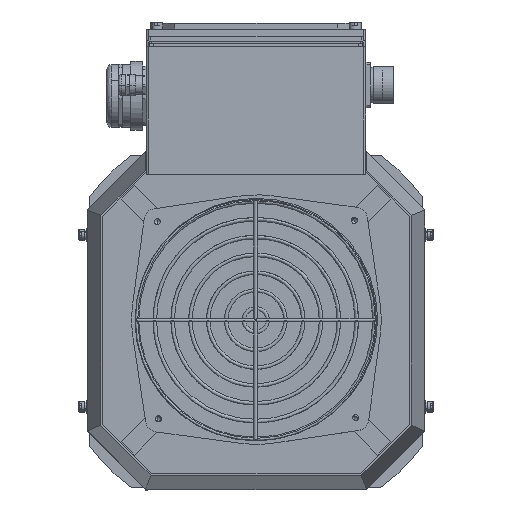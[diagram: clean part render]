
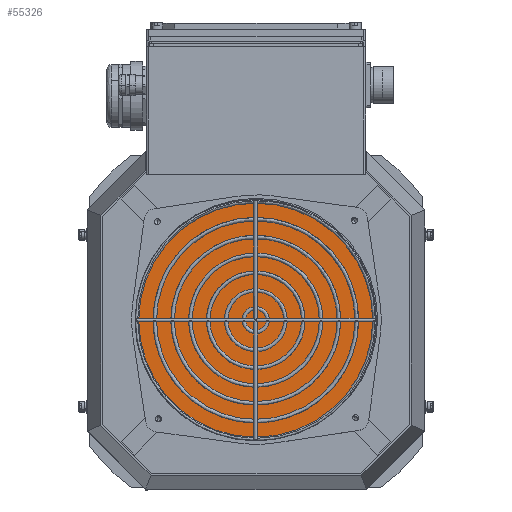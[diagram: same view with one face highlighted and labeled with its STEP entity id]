
A CAD part, top view. The second image highlights one B-rep face of the part: STEP entity #55326.
In plain terms, the highlighted planar face has unit normal (0, 0, 1).
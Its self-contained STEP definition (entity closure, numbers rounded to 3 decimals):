
#318 = DIRECTION ( 'NONE',  ( 1., 0., 0. ) ) ;
#1657 = VERTEX_POINT ( 'NONE', #57262 ) ;
#1967 = DIRECTION ( 'NONE',  ( 0.707, 0.707, 0. ) ) ;
#2283 = LINE ( 'NONE', #59816, #4056 ) ;
#4056 = VECTOR ( 'NONE', #25013, 1000. ) ;
#5516 = EDGE_CURVE ( 'NONE', #62425, #42437, #56407, .T. ) ;
#7444 = CARTESIAN_POINT ( 'NONE',  ( 0., -140., 434.5 ) ) ;
#7828 = ORIENTED_EDGE ( 'NONE', *, *, #21701, .F. ) ;
#8009 = ORIENTED_EDGE ( 'NONE', *, *, #69026, .F. ) ;
#8382 = LINE ( 'NONE', #75233, #47499 ) ;
#8986 = CARTESIAN_POINT ( 'NONE',  ( 140., -92.172, 434.5 ) ) ;
#9298 = LINE ( 'NONE', #56111, #35703 ) ;
#10020 = VECTOR ( 'NONE', #52625, 1000. ) ;
#11594 = CARTESIAN_POINT ( 'NONE',  ( 0., 0., 434.5 ) ) ;
#12910 = CARTESIAN_POINT ( 'NONE',  ( -92.172, -140., 434.5 ) ) ;
#16431 = DIRECTION ( 'NONE',  ( 0., 0., -1. ) ) ;
#18438 = VECTOR ( 'NONE', #65113, 1000. ) ;
#19341 = VECTOR ( 'NONE', #50684, 1000. ) ;
#19885 = ORIENTED_EDGE ( 'NONE', *, *, #56350, .F. ) ;
#21159 = LINE ( 'NONE', #39233, #19341 ) ;
#21701 = EDGE_CURVE ( 'NONE', #52349, #48442, #47237, .T. ) ;
#23300 = CARTESIAN_POINT ( 'NONE',  ( 92.172, 140., 434.5 ) ) ;
#23409 = ORIENTED_EDGE ( 'NONE', *, *, #61544, .F. ) ;
#25013 = DIRECTION ( 'NONE',  ( -0.707, 0.707, 0. ) ) ;
#25706 = VERTEX_POINT ( 'NONE', #23300 ) ;
#26122 = CARTESIAN_POINT ( 'NONE',  ( -140., 92.172, 434.5 ) ) ;
#28888 = CARTESIAN_POINT ( 'NONE',  ( 140., 92.172, 434.5 ) ) ;
#33615 = EDGE_CURVE ( 'NONE', #25706, #62425, #21159, .T. ) ;
#35703 = VECTOR ( 'NONE', #49790, 1000. ) ;
#39233 = CARTESIAN_POINT ( 'NONE',  ( 92.172, 140., 434.5 ) ) ;
#40941 = CARTESIAN_POINT ( 'NONE',  ( 140., 0., 434.5 ) ) ;
#42052 = LINE ( 'NONE', #7444, #18438 ) ;
#42437 = VERTEX_POINT ( 'NONE', #56046 ) ;
#46754 = FACE_OUTER_BOUND ( 'NONE', #48431, .T. ) ;
#47237 = LINE ( 'NONE', #26122, #72626 ) ;
#47499 = VECTOR ( 'NONE', #318, 1000. ) ;
#48431 = EDGE_LOOP ( 'NONE', ( #56174, #23409, #48794, #8009, #71488, #54366, #19885, #7828 ) ) ;
#48442 = VERTEX_POINT ( 'NONE', #59232 ) ;
#48794 = ORIENTED_EDGE ( 'NONE', *, *, #71636, .F. ) ;
#49790 = DIRECTION ( 'NONE',  ( 0., 1., 0. ) ) ;
#50684 = DIRECTION ( 'NONE',  ( 0.707, -0.707, 0. ) ) ;
#51048 = VERTEX_POINT ( 'NONE', #68718 ) ;
#52349 = VERTEX_POINT ( 'NONE', #55603 ) ;
#52625 = DIRECTION ( 'NONE',  ( 0., -1., 0. ) ) ;
#53004 = AXIS2_PLACEMENT_3D ( 'NONE', #11594, #16431, #74799 ) ;
#54366 = ORIENTED_EDGE ( 'NONE', *, *, #33615, .F. ) ;
#54476 = VECTOR ( 'NONE', #63326, 1000. ) ;
#55326 = ADVANCED_FACE ( 'NONE', ( #46754 ), #63672, .F. ) ;
#55603 = CARTESIAN_POINT ( 'NONE',  ( -140., 92.172, 434.5 ) ) ;
#56046 = CARTESIAN_POINT ( 'NONE',  ( 140., -92.172, 434.5 ) ) ;
#56111 = CARTESIAN_POINT ( 'NONE',  ( -140., 0., 434.5 ) ) ;
#56174 = ORIENTED_EDGE ( 'NONE', *, *, #71782, .F. ) ;
#56350 = EDGE_CURVE ( 'NONE', #48442, #25706, #8382, .T. ) ;
#56407 = LINE ( 'NONE', #40941, #10020 ) ;
#57262 = CARTESIAN_POINT ( 'NONE',  ( 92.172, -140., 434.5 ) ) ;
#59232 = CARTESIAN_POINT ( 'NONE',  ( -92.172, 140., 434.5 ) ) ;
#59816 = CARTESIAN_POINT ( 'NONE',  ( -92.172, -140., 434.5 ) ) ;
#60801 = LINE ( 'NONE', #8986, #54476 ) ;
#61544 = EDGE_CURVE ( 'NONE', #74291, #51048, #2283, .T. ) ;
#62425 = VERTEX_POINT ( 'NONE', #28888 ) ;
#63326 = DIRECTION ( 'NONE',  ( -0.707, -0.707, 0. ) ) ;
#63672 = PLANE ( 'NONE',  #53004 ) ;
#65113 = DIRECTION ( 'NONE',  ( -1., 0., 0. ) ) ;
#68718 = CARTESIAN_POINT ( 'NONE',  ( -140., -92.172, 434.5 ) ) ;
#69026 = EDGE_CURVE ( 'NONE', #42437, #1657, #60801, .T. ) ;
#71488 = ORIENTED_EDGE ( 'NONE', *, *, #5516, .F. ) ;
#71636 = EDGE_CURVE ( 'NONE', #1657, #74291, #42052, .T. ) ;
#71782 = EDGE_CURVE ( 'NONE', #51048, #52349, #9298, .T. ) ;
#72626 = VECTOR ( 'NONE', #1967, 1000. ) ;
#74291 = VERTEX_POINT ( 'NONE', #12910 ) ;
#74799 = DIRECTION ( 'NONE',  ( -1., 0., 0. ) ) ;
#75233 = CARTESIAN_POINT ( 'NONE',  ( 0., 140., 434.5 ) ) ;
